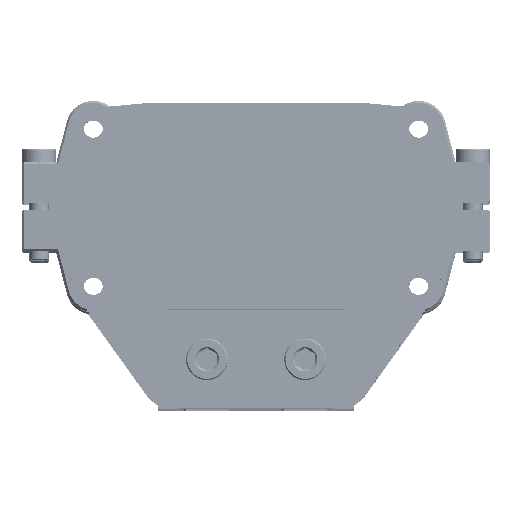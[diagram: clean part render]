
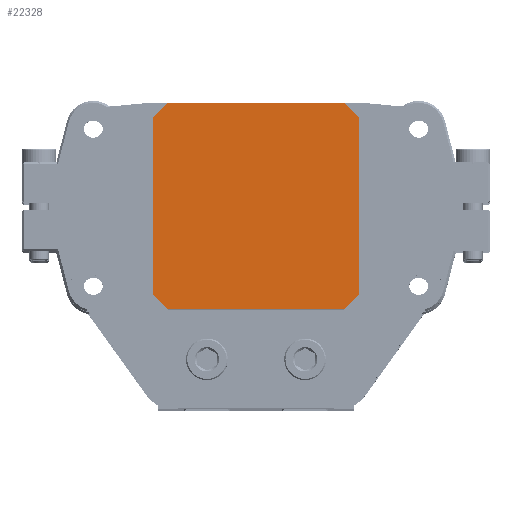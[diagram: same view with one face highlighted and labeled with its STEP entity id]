
A CAD part, top view. The second image highlights one B-rep face of the part: STEP entity #22328.
In plain terms, the highlighted planar face has unit normal (0, 0, 1) as drawn and (-1, 0, 0) by its records, which use the part's own axes.
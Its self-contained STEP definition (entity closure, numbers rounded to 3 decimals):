
#3757=FACE_OUTER_BOUND('',#5106,.T.);
#5106=EDGE_LOOP('',(#15878,#15879,#15880,#15881,#15882,#15883,#15884,#15885));
#6774=LINE('',#30089,#8220);
#6787=LINE('',#30114,#8233);
#6800=LINE('',#30141,#8246);
#6813=LINE('',#30166,#8259);
#6829=LINE('',#30194,#8275);
#6830=LINE('',#30195,#8276);
#6831=LINE('',#30196,#8277);
#6832=LINE('',#30197,#8278);
#8220=VECTOR('',#25762,36.);
#8233=VECTOR('',#25779,36.);
#8246=VECTOR('',#25796,36.);
#8259=VECTOR('',#25813,36.);
#8275=VECTOR('',#25845,4.243);
#8276=VECTOR('',#25846,4.243);
#8277=VECTOR('',#25847,4.243);
#8278=VECTOR('',#25848,4.243);
#9590=VERTEX_POINT('',#30086);
#9591=VERTEX_POINT('',#30088);
#9600=VERTEX_POINT('',#30111);
#9601=VERTEX_POINT('',#30113);
#9612=VERTEX_POINT('',#30139);
#9613=VERTEX_POINT('',#30140);
#9622=VERTEX_POINT('',#30164);
#9623=VERTEX_POINT('',#30165);
#11969=EDGE_CURVE('',#9591,#9590,#6774,.T.);
#11982=EDGE_CURVE('',#9601,#9600,#6787,.T.);
#11995=EDGE_CURVE('',#9612,#9613,#6800,.T.);
#12008=EDGE_CURVE('',#9622,#9623,#6813,.T.);
#12024=EDGE_CURVE('',#9590,#9622,#6829,.T.);
#12025=EDGE_CURVE('',#9623,#9612,#6830,.T.);
#12026=EDGE_CURVE('',#9613,#9601,#6831,.T.);
#12027=EDGE_CURVE('',#9600,#9591,#6832,.T.);
#15878=ORIENTED_EDGE('',*,*,#12024,.T.);
#15879=ORIENTED_EDGE('',*,*,#12008,.T.);
#15880=ORIENTED_EDGE('',*,*,#12025,.T.);
#15881=ORIENTED_EDGE('',*,*,#11995,.T.);
#15882=ORIENTED_EDGE('',*,*,#12026,.T.);
#15883=ORIENTED_EDGE('',*,*,#11982,.T.);
#15884=ORIENTED_EDGE('',*,*,#12027,.T.);
#15885=ORIENTED_EDGE('',*,*,#11969,.T.);
#22010=PLANE('',#23834);
#22328=ADVANCED_FACE('',(#3757),#22010,.T.);
#23834=AXIS2_PLACEMENT_3D('',#30193,#25843,#25844);
#25762=DIRECTION('',(0.,-1.,0.));
#25779=DIRECTION('',(0.,0.,-1.));
#25796=DIRECTION('',(0.,1.,0.));
#25813=DIRECTION('',(0.,0.,1.));
#25843=DIRECTION('center_axis',(-1.,0.,0.));
#25844=DIRECTION('ref_axis',(0.,0.,1.));
#25845=DIRECTION('',(0.,-0.707,0.707));
#25846=DIRECTION('',(0.,0.707,0.707));
#25847=DIRECTION('',(0.,0.707,-0.707));
#25848=DIRECTION('',(0.,-0.707,-0.707));
#30086=CARTESIAN_POINT('',(-20.,-39.,-42.));
#30088=CARTESIAN_POINT('',(-20.,-3.,-42.));
#30089=CARTESIAN_POINT('',(-20.,-3.,-42.));
#30111=CARTESIAN_POINT('',(-20.,0.,-39.));
#30113=CARTESIAN_POINT('',(-20.,0.,-3.));
#30114=CARTESIAN_POINT('',(-20.,0.,-3.));
#30139=CARTESIAN_POINT('',(-20.,-39.,0.));
#30140=CARTESIAN_POINT('',(-20.,-3.,0.));
#30141=CARTESIAN_POINT('',(-20.,-39.,0.));
#30164=CARTESIAN_POINT('',(-20.,-42.,-39.));
#30165=CARTESIAN_POINT('',(-20.,-42.,-3.));
#30166=CARTESIAN_POINT('',(-20.,-42.,-39.));
#30193=CARTESIAN_POINT('Origin',(-20.,0.,0.));
#30194=CARTESIAN_POINT('',(-20.,-39.,-42.));
#30195=CARTESIAN_POINT('',(-20.,-42.,-3.));
#30196=CARTESIAN_POINT('',(-20.,-3.,0.));
#30197=CARTESIAN_POINT('',(-20.,0.,-39.));
